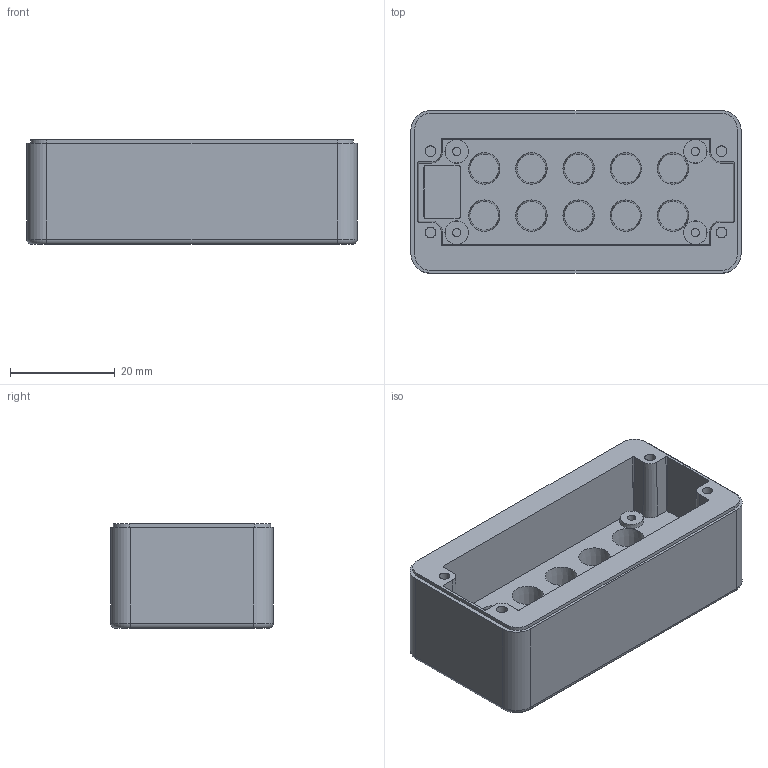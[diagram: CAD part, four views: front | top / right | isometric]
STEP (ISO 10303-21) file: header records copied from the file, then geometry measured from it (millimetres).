
FILE_DESCRIPTION(('FreeCAD Model'),'2;1');
FILE_NAME('Open CASCADE Shape Model','2024-02-06T22:22:44',('Author'),( ''),'Open CASCADE STEP processor 7.6','FreeCAD','Unknown');
FILE_SCHEMA(('AUTOMOTIVE_DESIGN { 1 0 10303 214 1 1 1 1 }'));
Length unit declared in the file: millimetre
Products named in the file (1): lower
Bounding box: 63 x 31 x 20 mm (x, y, z)
Volume: 22426.4 mm3; surface area: 10954.2 mm2
Topology: 1 solids, 1 shells, 105 faces, 226 edges, 148 vertices
Faces by surface type: plane 51, cone 30, cylinder 20, torus 4
Full cylindrical faces by diameter (mm): 1.6 x4, 2.05 x4
Entity records: 2892 total; most frequent: CARTESIAN_POINT 574, DIRECTION 490, ORIENTED_EDGE 452, EDGE_CURVE 226, AXIS2_PLACEMENT_3D 210, VERTEX_POINT 148, FACE_BOUND 130, EDGE_LOOP 130
